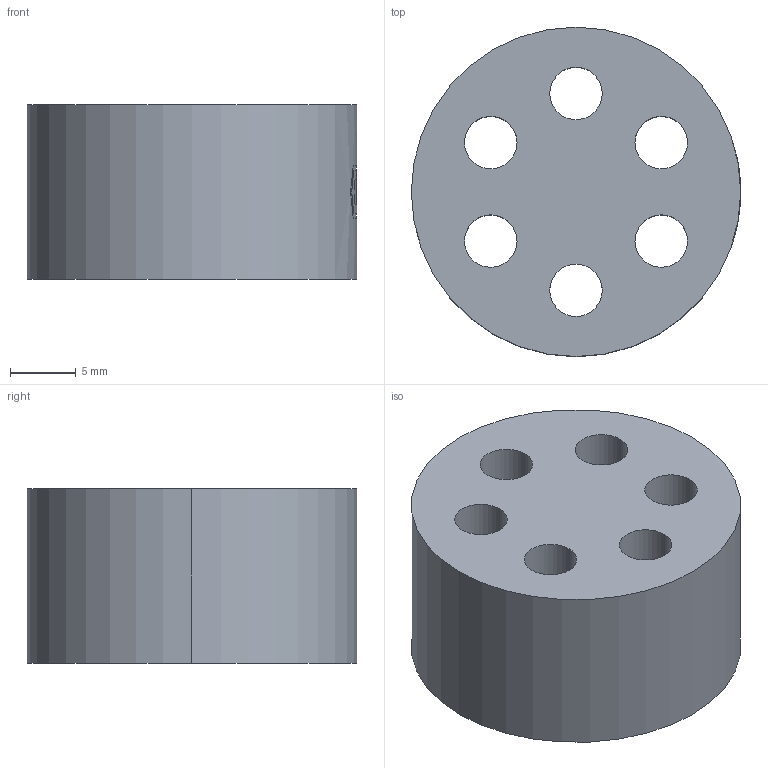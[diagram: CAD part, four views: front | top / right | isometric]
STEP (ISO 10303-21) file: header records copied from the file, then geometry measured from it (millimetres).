
FILE_DESCRIPTION (( 'STEP AP203' ), '1' );
FILE_NAME ('WJ-DM 32-6x4.STEP', '2007-03-02T10:16:59', ( ' ' ), ( '' ), 'SwSTEP 2.0', 'SolidWorks 2005278', '' );
FILE_SCHEMA (( 'CONFIG_CONTROL_DESIGN' ));
Length unit declared in the file: millimetre
Products named in the file (1): WJ-DM 32-6x4
Bounding box: 25.1 x 25.1 x 13.31 mm (x, y, z)
Volume: 5285.4 mm3; surface area: 2847.9 mm2
Topology: 1 solids, 1 shells, 56 faces, 155 edges, 102 vertices
Faces by surface type: plane 36, cylinder 18, cone 2
Entity records: 1928 total; most frequent: CARTESIAN_POINT 374, ORIENTED_EDGE 310, DIRECTION 309, EDGE_CURVE 155, AXIS2_PLACEMENT_3D 117, VERTEX_POINT 102, LINE 75, VECTOR 75
